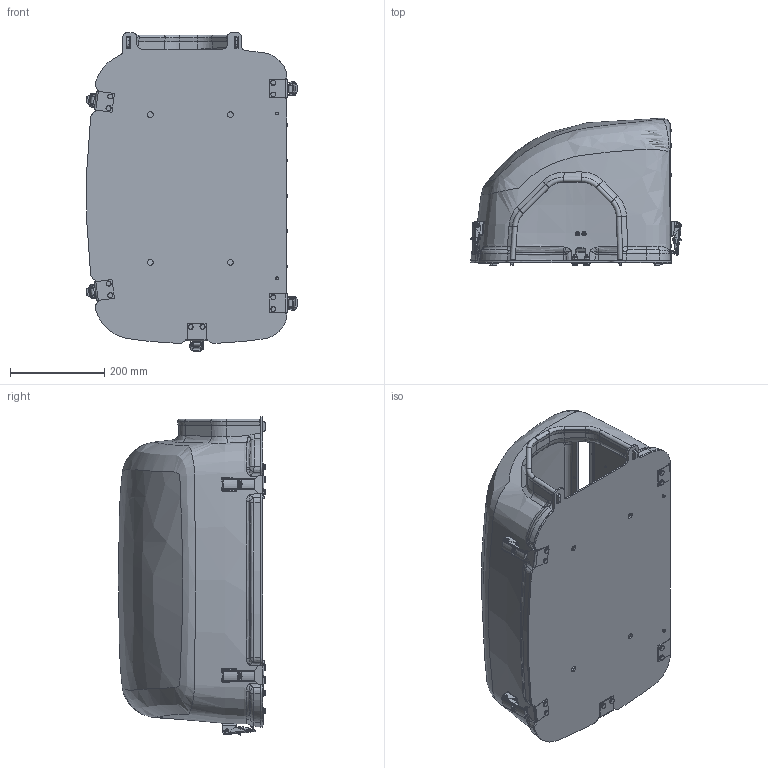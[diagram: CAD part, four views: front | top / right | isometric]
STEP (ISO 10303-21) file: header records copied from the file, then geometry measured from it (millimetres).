
FILE_DESCRIPTION (( 'STEP AP203' ), '1' );
FILE_NAME ('S-V2469.STEP', '2018-05-21T08:49:49', ( '' ), ( '' ), 'SwSTEP 2.0', 'SolidWorks 2018', '' );
FILE_SCHEMA (( 'CONFIG_CONTROL_DESIGN' ));
Length unit declared in the file: millimetre
Products named in the file (1): S-V2469
Bounding box: 449.99 x 312.91 x 677.51 mm (x, y, z)
Volume: 5225697 mm3; surface area: 2206341.7 mm2
Topology: 135 solids, 135 shells, 4220 faces, 9759 edges, 5841 vertices
Faces by surface type: plane 1872, cylinder 1204, cone 580, bspline 476, torus 48, sphere 40
Entity records: 164687 total; most frequent: CARTESIAN_POINT 72490, ORIENTED_EDGE 19418, DIRECTION 18361, EDGE_CURVE 9709, AXIS2_PLACEMENT_3D 6792, VERTEX_POINT 5841, LINE 4777, VECTOR 4777
